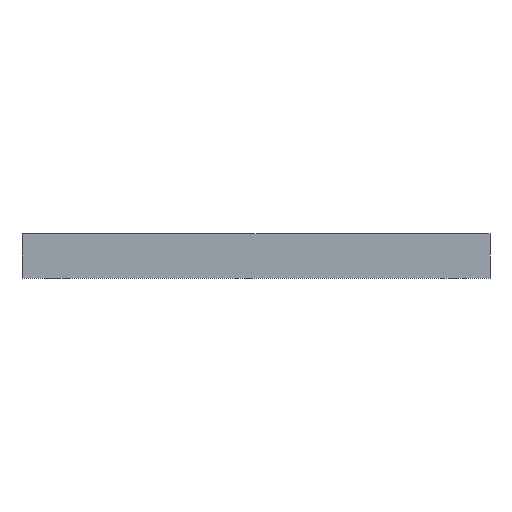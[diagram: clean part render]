
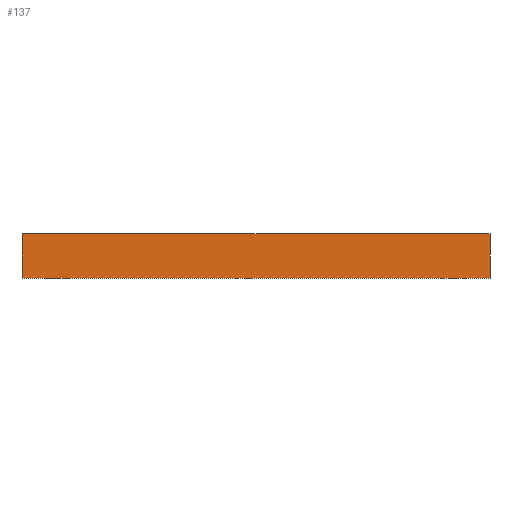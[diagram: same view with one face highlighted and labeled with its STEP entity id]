
A CAD part, front view. The second image highlights one B-rep face of the part: STEP entity #137.
In plain terms, the highlighted planar face has unit normal (0, -1, 0).
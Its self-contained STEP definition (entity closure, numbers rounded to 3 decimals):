
#21 = EDGE_CURVE('',#22,#24,#26,.T.);
#22 = VERTEX_POINT('',#23);
#23 = CARTESIAN_POINT('',(-42.5,-65.,0.));
#24 = VERTEX_POINT('',#25);
#25 = CARTESIAN_POINT('',(-42.5,-65.,8.));
#26 = SURFACE_CURVE('',#27,(#31,#43),.PCURVE_S1.);
#27 = LINE('',#28,#29);
#28 = CARTESIAN_POINT('',(-42.5,-65.,0.));
#29 = VECTOR('',#30,1.);
#30 = DIRECTION('',(0.,0.,1.));
#31 = PCURVE('',#32,#37);
#32 = PLANE('',#33);
#33 = AXIS2_PLACEMENT_3D('',#34,#35,#36);
#34 = CARTESIAN_POINT('',(-42.5,-65.,0.));
#35 = DIRECTION('',(1.,0.,0.));
#36 = DIRECTION('',(0.,0.,1.));
#37 = DEFINITIONAL_REPRESENTATION('',(#38),#42);
#38 = LINE('',#39,#40);
#39 = CARTESIAN_POINT('',(0.,0.));
#40 = VECTOR('',#41,1.);
#41 = DIRECTION('',(1.,0.));
#42 = ( GEOMETRIC_REPRESENTATION_CONTEXT(2) 
PARAMETRIC_REPRESENTATION_CONTEXT() REPRESENTATION_CONTEXT('2D SPACE',''
  ) );
#43 = PCURVE('',#44,#49);
#44 = PLANE('',#45);
#45 = AXIS2_PLACEMENT_3D('',#46,#47,#48);
#46 = CARTESIAN_POINT('',(-42.5,-65.,0.));
#47 = DIRECTION('',(0.,1.,0.));
#48 = DIRECTION('',(0.,0.,1.));
#49 = DEFINITIONAL_REPRESENTATION('',(#50),#54);
#50 = LINE('',#51,#52);
#51 = CARTESIAN_POINT('',(0.,0.));
#52 = VECTOR('',#53,1.);
#53 = DIRECTION('',(1.,0.));
#54 = ( GEOMETRIC_REPRESENTATION_CONTEXT(2) 
PARAMETRIC_REPRESENTATION_CONTEXT() REPRESENTATION_CONTEXT('2D SPACE',''
  ) );
#72 = PLANE('',#73);
#73 = AXIS2_PLACEMENT_3D('',#74,#75,#76);
#74 = CARTESIAN_POINT('',(-42.5,-65.,0.));
#75 = DIRECTION('',(0.,0.,1.));
#76 = DIRECTION('',(1.,0.,0.));
#126 = PLANE('',#127);
#127 = AXIS2_PLACEMENT_3D('',#128,#129,#130);
#128 = CARTESIAN_POINT('',(-42.5,-65.,8.));
#129 = DIRECTION('',(0.,0.,1.));
#130 = DIRECTION('',(1.,0.,0.));
#137 = ADVANCED_FACE('',(#138),#44,.F.);
#138 = FACE_BOUND('',#139,.F.);
#139 = EDGE_LOOP('',(#140,#163,#164,#187));
#140 = ORIENTED_EDGE('',*,*,#141,.F.);
#141 = EDGE_CURVE('',#22,#142,#144,.T.);
#142 = VERTEX_POINT('',#143);
#143 = CARTESIAN_POINT('',(42.5,-65.,0.));
#144 = SURFACE_CURVE('',#145,(#149,#156),.PCURVE_S1.);
#145 = LINE('',#146,#147);
#146 = CARTESIAN_POINT('',(-42.5,-65.,0.));
#147 = VECTOR('',#148,1.);
#148 = DIRECTION('',(1.,0.,0.));
#149 = PCURVE('',#44,#150);
#150 = DEFINITIONAL_REPRESENTATION('',(#151),#155);
#151 = LINE('',#152,#153);
#152 = CARTESIAN_POINT('',(0.,0.));
#153 = VECTOR('',#154,1.);
#154 = DIRECTION('',(0.,1.));
#155 = ( GEOMETRIC_REPRESENTATION_CONTEXT(2) 
PARAMETRIC_REPRESENTATION_CONTEXT() REPRESENTATION_CONTEXT('2D SPACE',''
  ) );
#156 = PCURVE('',#72,#157);
#157 = DEFINITIONAL_REPRESENTATION('',(#158),#162);
#158 = LINE('',#159,#160);
#159 = CARTESIAN_POINT('',(0.,0.));
#160 = VECTOR('',#161,1.);
#161 = DIRECTION('',(1.,0.));
#162 = ( GEOMETRIC_REPRESENTATION_CONTEXT(2) 
PARAMETRIC_REPRESENTATION_CONTEXT() REPRESENTATION_CONTEXT('2D SPACE',''
  ) );
#163 = ORIENTED_EDGE('',*,*,#21,.T.);
#164 = ORIENTED_EDGE('',*,*,#165,.T.);
#165 = EDGE_CURVE('',#24,#166,#168,.T.);
#166 = VERTEX_POINT('',#167);
#167 = CARTESIAN_POINT('',(42.5,-65.,8.));
#168 = SURFACE_CURVE('',#169,(#173,#180),.PCURVE_S1.);
#169 = LINE('',#170,#171);
#170 = CARTESIAN_POINT('',(-42.5,-65.,8.));
#171 = VECTOR('',#172,1.);
#172 = DIRECTION('',(1.,0.,0.));
#173 = PCURVE('',#44,#174);
#174 = DEFINITIONAL_REPRESENTATION('',(#175),#179);
#175 = LINE('',#176,#177);
#176 = CARTESIAN_POINT('',(8.,0.));
#177 = VECTOR('',#178,1.);
#178 = DIRECTION('',(0.,1.));
#179 = ( GEOMETRIC_REPRESENTATION_CONTEXT(2) 
PARAMETRIC_REPRESENTATION_CONTEXT() REPRESENTATION_CONTEXT('2D SPACE',''
  ) );
#180 = PCURVE('',#126,#181);
#181 = DEFINITIONAL_REPRESENTATION('',(#182),#186);
#182 = LINE('',#183,#184);
#183 = CARTESIAN_POINT('',(0.,0.));
#184 = VECTOR('',#185,1.);
#185 = DIRECTION('',(1.,0.));
#186 = ( GEOMETRIC_REPRESENTATION_CONTEXT(2) 
PARAMETRIC_REPRESENTATION_CONTEXT() REPRESENTATION_CONTEXT('2D SPACE',''
  ) );
#187 = ORIENTED_EDGE('',*,*,#188,.F.);
#188 = EDGE_CURVE('',#142,#166,#189,.T.);
#189 = SURFACE_CURVE('',#190,(#194,#201),.PCURVE_S1.);
#190 = LINE('',#191,#192);
#191 = CARTESIAN_POINT('',(42.5,-65.,0.));
#192 = VECTOR('',#193,1.);
#193 = DIRECTION('',(0.,0.,1.));
#194 = PCURVE('',#44,#195);
#195 = DEFINITIONAL_REPRESENTATION('',(#196),#200);
#196 = LINE('',#197,#198);
#197 = CARTESIAN_POINT('',(0.,85.));
#198 = VECTOR('',#199,1.);
#199 = DIRECTION('',(1.,0.));
#200 = ( GEOMETRIC_REPRESENTATION_CONTEXT(2) 
PARAMETRIC_REPRESENTATION_CONTEXT() REPRESENTATION_CONTEXT('2D SPACE',''
  ) );
#201 = PCURVE('',#202,#207);
#202 = PLANE('',#203);
#203 = AXIS2_PLACEMENT_3D('',#204,#205,#206);
#204 = CARTESIAN_POINT('',(42.5,-65.,0.));
#205 = DIRECTION('',(1.,0.,0.));
#206 = DIRECTION('',(0.,0.,1.));
#207 = DEFINITIONAL_REPRESENTATION('',(#208),#212);
#208 = LINE('',#209,#210);
#209 = CARTESIAN_POINT('',(0.,0.));
#210 = VECTOR('',#211,1.);
#211 = DIRECTION('',(1.,0.));
#212 = ( GEOMETRIC_REPRESENTATION_CONTEXT(2) 
PARAMETRIC_REPRESENTATION_CONTEXT() REPRESENTATION_CONTEXT('2D SPACE',''
  ) );
